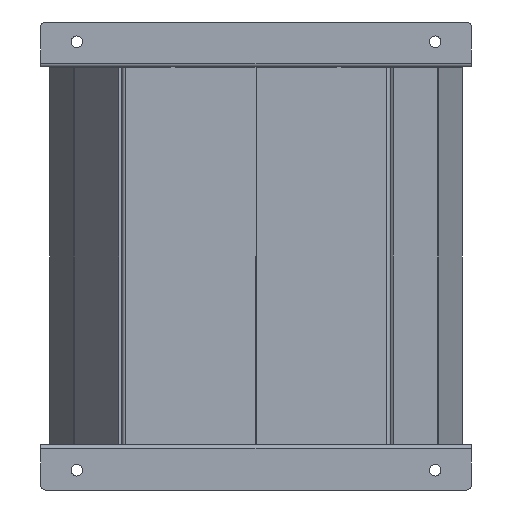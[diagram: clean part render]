
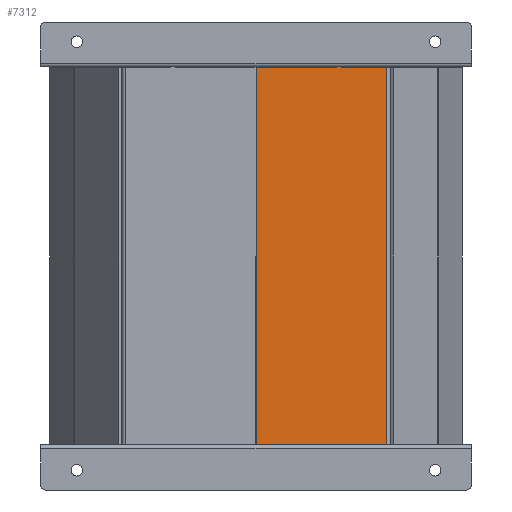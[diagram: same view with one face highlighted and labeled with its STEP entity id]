
A CAD part, front view. The second image highlights one B-rep face of the part: STEP entity #7312.
In plain terms, the highlighted planar face has unit normal (0, -1, 0).
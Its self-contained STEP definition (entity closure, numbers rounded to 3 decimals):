
#98 = CARTESIAN_POINT ( 'NONE',  ( -210., -121., 56.1 ) ) ;
#145 = CARTESIAN_POINT ( 'NONE',  ( -210., -121., 145. ) ) ;
#201 = LINE ( 'NONE', #306, #305 ) ;
#304 = DIRECTION ( 'NONE',  ( 0., 0., -1. ) ) ;
#305 = VECTOR ( 'NONE', #304, 1000. ) ;
#306 = CARTESIAN_POINT ( 'NONE',  ( -210., -121., 145. ) ) ;
#4523 = CARTESIAN_POINT ( 'NONE',  ( 210., -121., 56.1 ) ) ;
#4533 = DIRECTION ( 'NONE',  ( 0., 0., -1. ) ) ;
#4534 = VECTOR ( 'NONE', #4533, 1000. ) ;
#4535 = CARTESIAN_POINT ( 'NONE',  ( 210., -121., 145. ) ) ;
#4536 = LINE ( 'NONE', #4535, #4534 ) ;
#4736 = DIRECTION ( 'NONE',  ( 0., 0., -1. ) ) ;
#4737 = VECTOR ( 'NONE', #4736, 1000. ) ;
#4738 = CARTESIAN_POINT ( 'NONE',  ( 210., -121., 145. ) ) ;
#4739 = LINE ( 'NONE', #4738, #4737 ) ;
#4748 = LINE ( 'NONE', #4754, #4872 ) ;
#4754 = CARTESIAN_POINT ( 'NONE',  ( 213., -121., 56.1 ) ) ;
#4776 = DIRECTION ( 'NONE',  ( 0., 0., -1. ) ) ;
#4777 = VECTOR ( 'NONE', #4776, 1000. ) ;
#4778 = CARTESIAN_POINT ( 'NONE',  ( -213., -121., 50.1 ) ) ;
#4779 = LINE ( 'NONE', #4778, #4777 ) ;
#4780 = DIRECTION ( 'NONE',  ( -1., 0., 0. ) ) ;
#4781 = VECTOR ( 'NONE', #4780, 1000. ) ;
#4782 = CARTESIAN_POINT ( 'NONE',  ( -213., -121., 56.1 ) ) ;
#4783 = LINE ( 'NONE', #4782, #4781 ) ;
#4784 = DIRECTION ( 'NONE',  ( 0., 0., -1. ) ) ;
#4785 = VECTOR ( 'NONE', #4784, 1000. ) ;
#4786 = CARTESIAN_POINT ( 'NONE',  ( 213., -121., 50.1 ) ) ;
#4787 = LINE ( 'NONE', #4786, #4785 ) ;
#4851 = DIRECTION ( 'NONE',  ( -1., 0., 0. ) ) ;
#4852 = VECTOR ( 'NONE', #4851, 1000. ) ;
#4853 = CARTESIAN_POINT ( 'NONE',  ( 210., -121., 0.1 ) ) ;
#4854 = LINE ( 'NONE', #4853, #4852 ) ;
#4855 = CARTESIAN_POINT ( 'NONE',  ( -213., -121., 50.1 ) ) ;
#4862 = CARTESIAN_POINT ( 'NONE',  ( -213., -121., 56.1 ) ) ;
#4863 = CARTESIAN_POINT ( 'NONE',  ( 213., -121., 56.1 ) ) ;
#4864 = DIRECTION ( 'NONE',  ( 0., 0., 1. ) ) ;
#4865 = DIRECTION ( 'NONE',  ( 0., 1., 0. ) ) ;
#4866 = CARTESIAN_POINT ( 'NONE',  ( 210., -121., 145. ) ) ;
#4867 = AXIS2_PLACEMENT_3D ( 'NONE', #4866, #4865, #4864 ) ;
#4868 = PLANE ( 'NONE',  #4867 ) ;
#4869 = FACE_OUTER_BOUND ( 'NONE', #7311, .T. ) ;
#4870 = CARTESIAN_POINT ( 'NONE',  ( 213., -121., 50.1 ) ) ;
#4871 = DIRECTION ( 'NONE',  ( 1., 0., 0. ) ) ;
#4872 = VECTOR ( 'NONE', #4871, 1000. ) ;
#4886 = CARTESIAN_POINT ( 'NONE',  ( 210., -121., 145. ) ) ;
#4957 = DIRECTION ( 'NONE',  ( -1., 0., 0. ) ) ;
#4958 = VECTOR ( 'NONE', #4957, 1000. ) ;
#4959 = CARTESIAN_POINT ( 'NONE',  ( 210., -121., 145. ) ) ;
#4960 = LINE ( 'NONE', #4959, #4958 ) ;
#4961 = DIRECTION ( 'NONE',  ( 1., 0., 0. ) ) ;
#4962 = VECTOR ( 'NONE', #4961, 1000. ) ;
#4963 = CARTESIAN_POINT ( 'NONE',  ( -210., -121., 50.1 ) ) ;
#4964 = LINE ( 'NONE', #4963, #4962 ) ;
#4965 = DIRECTION ( 'NONE',  ( -1., 0., 0. ) ) ;
#4966 = VECTOR ( 'NONE', #4965, 1000. ) ;
#4967 = CARTESIAN_POINT ( 'NONE',  ( 210., -121., 50.1 ) ) ;
#4968 = LINE ( 'NONE', #4967, #4966 ) ;
#5071 = CARTESIAN_POINT ( 'NONE',  ( -210., -121., 0.1 ) ) ;
#5072 = CARTESIAN_POINT ( 'NONE',  ( -210., -121., 50.1 ) ) ;
#5082 = DIRECTION ( 'NONE',  ( 0., 0., -1. ) ) ;
#5083 = VECTOR ( 'NONE', #5082, 1000. ) ;
#5084 = CARTESIAN_POINT ( 'NONE',  ( -210., -121., 145. ) ) ;
#5085 = LINE ( 'NONE', #5084, #5083 ) ;
#5141 = CARTESIAN_POINT ( 'NONE',  ( 210., -121., 50.1 ) ) ;
#5154 = CARTESIAN_POINT ( 'NONE',  ( 210., -121., 0.1 ) ) ;
#7150 = EDGE_CURVE ( 'NONE', #7205, #7156, #4536, .T. ) ;
#7156 = VERTEX_POINT ( 'NONE', #4523 ) ;
#7205 = VERTEX_POINT ( 'NONE', #4886 ) ;
#7217 = EDGE_CURVE ( 'NONE', #7377, #7369, #4739, .T. ) ;
#7239 = EDGE_CURVE ( 'NONE', #7314, #7310, #4787, .T. ) ;
#7240 = ORIENTED_EDGE ( 'NONE', *, *, #7308, .F. ) ;
#7241 = ORIENTED_EDGE ( 'NONE', *, *, #7150, .F. ) ;
#7242 = EDGE_CURVE ( 'NONE', #7687, #7315, #4783, .T. ) ;
#7243 = EDGE_CURVE ( 'NONE', #7315, #7320, #4779, .T. ) ;
#7245 = ORIENTED_EDGE ( 'NONE', *, *, #7243, .T. ) ;
#7246 = ORIENTED_EDGE ( 'NONE', *, *, #7693, .T. ) ;
#7247 = ORIENTED_EDGE ( 'NONE', *, *, #7251, .T. ) ;
#7248 = EDGE_CURVE ( 'NONE', #7310, #7377, #4968, .T. ) ;
#7249 = ORIENTED_EDGE ( 'NONE', *, *, #7356, .T. ) ;
#7250 = ORIENTED_EDGE ( 'NONE', *, *, #7217, .F. ) ;
#7251 = EDGE_CURVE ( 'NONE', #7320, #7361, #4964, .T. ) ;
#7252 = EDGE_CURVE ( 'NONE', #7205, #7694, #4960, .T. ) ;
#7307 = ORIENTED_EDGE ( 'NONE', *, *, #7252, .T. ) ;
#7308 = EDGE_CURVE ( 'NONE', #7156, #7314, #4748, .T. ) ;
#7309 = ORIENTED_EDGE ( 'NONE', *, *, #7248, .F. ) ;
#7310 = VERTEX_POINT ( 'NONE', #4870 ) ;
#7311 = EDGE_LOOP ( 'NONE', ( #7246, #7319, #7245, #7247, #7249, #7321, #7250, #7309, #7313, #7240, #7241, #7307 ) ) ;
#7312 = ADVANCED_FACE ( 'NONE', ( #4869 ), #4868, .F. ) ;
#7313 = ORIENTED_EDGE ( 'NONE', *, *, #7239, .F. ) ;
#7314 = VERTEX_POINT ( 'NONE', #4863 ) ;
#7315 = VERTEX_POINT ( 'NONE', #4862 ) ;
#7319 = ORIENTED_EDGE ( 'NONE', *, *, #7242, .T. ) ;
#7320 = VERTEX_POINT ( 'NONE', #4855 ) ;
#7321 = ORIENTED_EDGE ( 'NONE', *, *, #7322, .F. ) ;
#7322 = EDGE_CURVE ( 'NONE', #7369, #7362, #4854, .T. ) ;
#7356 = EDGE_CURVE ( 'NONE', #7361, #7362, #5085, .T. ) ;
#7361 = VERTEX_POINT ( 'NONE', #5072 ) ;
#7362 = VERTEX_POINT ( 'NONE', #5071 ) ;
#7369 = VERTEX_POINT ( 'NONE', #5154 ) ;
#7377 = VERTEX_POINT ( 'NONE', #5141 ) ;
#7687 = VERTEX_POINT ( 'NONE', #98 ) ;
#7693 = EDGE_CURVE ( 'NONE', #7694, #7687, #201, .T. ) ;
#7694 = VERTEX_POINT ( 'NONE', #145 ) ;
